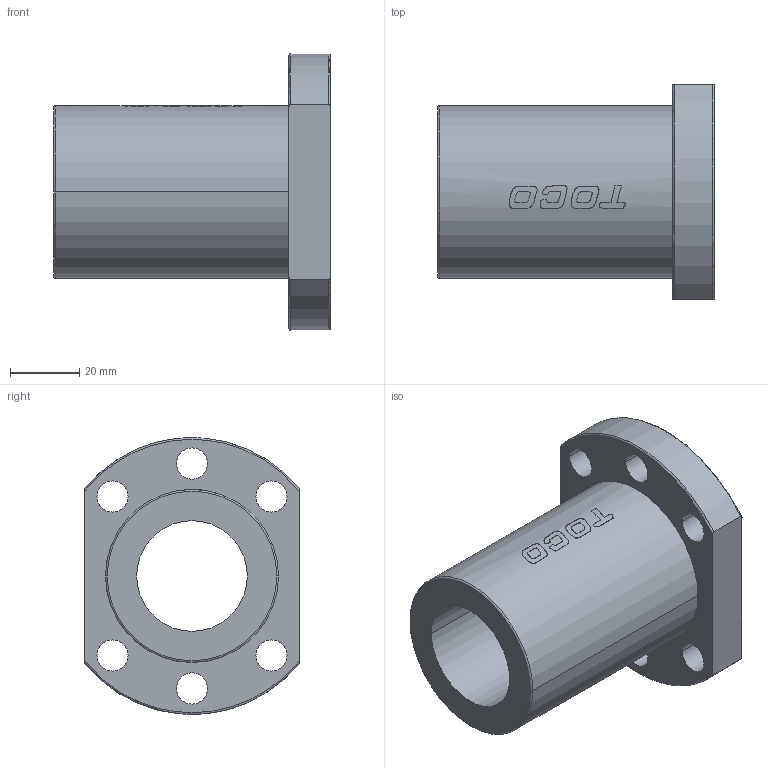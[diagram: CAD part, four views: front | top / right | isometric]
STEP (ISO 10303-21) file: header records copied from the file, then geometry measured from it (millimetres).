
FILE_DESCRIPTION (( 'STEP AP214' ), '1' );
FILE_NAME ('7.3109 STSR3220B1D.STEP', '2026-03-03T11:37:33', ( '' ), ( '' ), 'SwSTEP 2.0', 'SolidWorks 2025', '' );
FILE_SCHEMA (( 'AUTOMOTIVE_DESIGN' ));
Length unit declared in the file: millimetre
Products named in the file (1): 7.3109 STSR3220B1D
Bounding box: 80 x 62 x 79.94 mm (x, y, z)
Volume: 116631.7 mm3; surface area: 31631.3 mm2
Topology: 1 solids, 1 shells, 84 faces, 214 edges, 142 vertices
Faces by surface type: cylinder 30, bspline 26, plane 22, torus 6
Entity records: 10884 total; most frequent: CARTESIAN_POINT 8937, ORIENTED_EDGE 428, DIRECTION 325, EDGE_CURVE 214, VERTEX_POINT 142, AXIS2_PLACEMENT_3D 112, EDGE_LOOP 108, VECTOR 101
